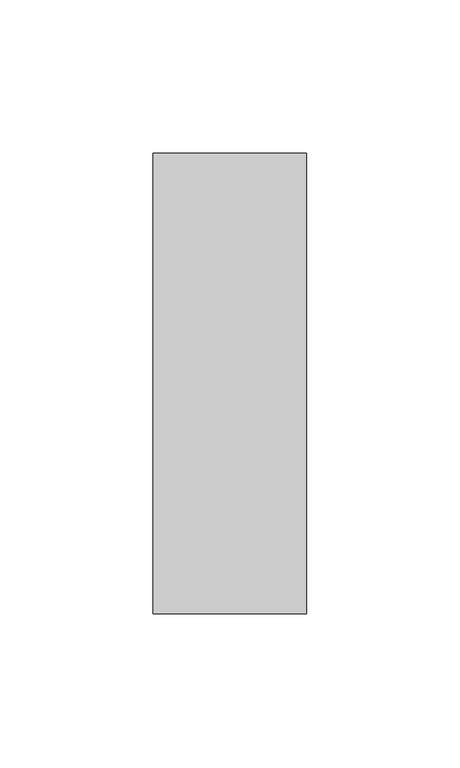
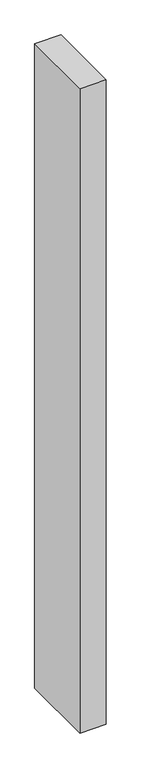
"""IFC4 building model written with IfcOpenShell, lengths in millimetres: member geometry, Прямоугольный импост : 50 x 150 мм."""

from ifc_helpers import new_model, si_unit, frame, origin, place, context, project, spatial, polyline, outline, extrude, source, transform, mapped, element, save


def member_a9e75885(model_context):
    return source(origin(), model_context, "Body", "SweptSolid", [
        extrude(outline(polyline([(25.0, 75.0), (25.0, -75.0), (-25.0, -75.0), (-25.0, 75.0), (25.0, 75.0)])), frame((0.0, 0.0, -1302.0113586), z_axis=(0.0, 0.0, 1.0), x_axis=(1.0, 0.0, 0.0)), (0.0, 0.0, 1.0), 1302.0113586),
    ])


if __name__ == "__main__":
    model = new_model("IFC4")
    model_context = context("Model", 3, world=origin())
    ifc_project = project(units=[si_unit("LENGTHUNIT", "METRE", prefix="MILLI")], contexts=[model_context])
    site = spatial("IfcSite", under=ifc_project)
    building = spatial("IfcBuilding", under=site)
    placement = place(None, origin())
    member_shape = member_a9e75885(model_context)
    element("IfcMember", 1, ObjectType="Прямоугольный импост : 50 x 150 мм", at=placement, inside=building, context=model_context, shape_type="MappedRepresentation", body=[
        mapped(member_shape, transform((0.0, 0.0, 0.0), x_axis=(1.0, 0.0, 0.0), y_axis=(0.0, 1.0, 0.0), z_axis=(0.0, 0.0, 1.0))),
    ])
    save(model, "model.ifc")
